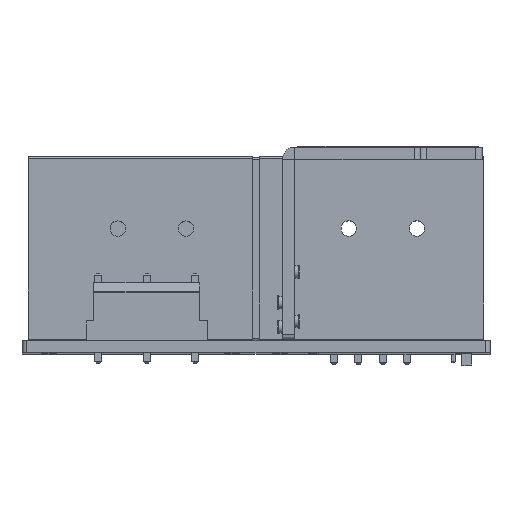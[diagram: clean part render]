
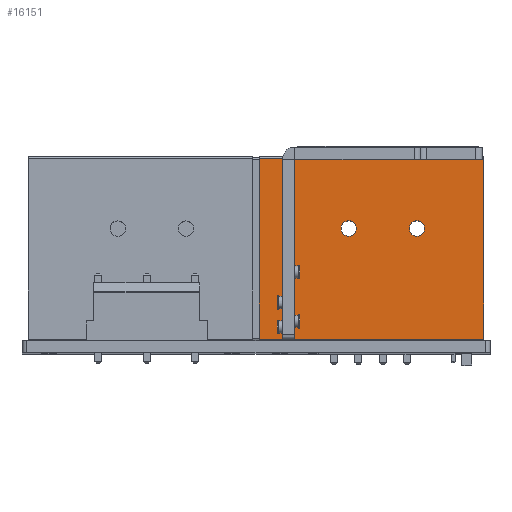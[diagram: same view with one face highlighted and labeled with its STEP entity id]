
A CAD part, top view. The second image highlights one B-rep face of the part: STEP entity #16151.
In plain terms, the highlighted planar face has unit normal (0, 0, 1) as drawn and (-1, 0, 0) by its records, which use the part's own axes.
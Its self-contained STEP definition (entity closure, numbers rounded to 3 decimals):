
#15432=DIRECTION('',(0.,1.,0.));
#15433=VECTOR('',#15432,29.4);
#15434=CARTESIAN_POINT('',(0.,0.3,0.));
#15435=LINE('',#15434,#15433);
#15507=DIRECTION('',(0.,1.,0.));
#15508=VECTOR('',#15507,29.4);
#15509=CARTESIAN_POINT('',(0.,0.3,-36.6));
#15510=LINE('',#15509,#15508);
#15589=DIRECTION('',(0.,0.,-1.));
#15590=VECTOR('',#15589,36.6);
#15591=CARTESIAN_POINT('',(0.,29.7,0.));
#15592=LINE('',#15591,#15590);
#15596=DIRECTION('',(0.,0.,-1.));
#15597=VECTOR('',#15596,36.6);
#15598=CARTESIAN_POINT('',(0.,0.3,0.));
#15599=LINE('',#15598,#15597);
#15603=CARTESIAN_POINT('',(0.,18.3,-22.));
#15604=DIRECTION('',(-1.,0.,0.));
#15605=DIRECTION('',(0.,1.,0.));
#15606=AXIS2_PLACEMENT_3D('',#15603,#15604,#15605);
#15611=CARTESIAN_POINT('',(0.,18.3,-22.));
#15612=DIRECTION('',(-1.,0.,0.));
#15613=DIRECTION('',(0.,-1.,0.));
#15614=AXIS2_PLACEMENT_3D('',#15611,#15612,#15613);
#15619=CARTESIAN_POINT('',(0.,18.3,-10.9));
#15620=DIRECTION('',(-1.,0.,0.));
#15621=DIRECTION('',(0.,1.,0.));
#15622=AXIS2_PLACEMENT_3D('',#15619,#15620,#15621);
#15627=CARTESIAN_POINT('',(0.,18.3,-10.9));
#15628=DIRECTION('',(-1.,0.,0.));
#15629=DIRECTION('',(0.,-1.,0.));
#15630=AXIS2_PLACEMENT_3D('',#15627,#15628,#15629);
#15918=CARTESIAN_POINT('',(0.,29.7,0.));
#15920=VERTEX_POINT('',#15918);
#15923=CARTESIAN_POINT('',(0.,29.7,-36.6));
#15924=VERTEX_POINT('',#15923);
#15925=CARTESIAN_POINT('',(0.,0.3,0.));
#15927=VERTEX_POINT('',#15925);
#15929=CARTESIAN_POINT('',(0.,0.3,-36.6));
#15930=VERTEX_POINT('',#15929);
#15941=CARTESIAN_POINT('',(0.,17.05,-22.));
#15942=VERTEX_POINT('',#15941);
#15945=CARTESIAN_POINT('',(0.,19.55,-22.));
#15946=VERTEX_POINT('',#15945);
#15953=CARTESIAN_POINT('',(0.,17.05,-10.9));
#15954=VERTEX_POINT('',#15953);
#15957=CARTESIAN_POINT('',(0.,19.55,-10.9));
#15958=VERTEX_POINT('',#15957);
#16127=CARTESIAN_POINT('',(0.,30.,0.));
#16128=DIRECTION('',(-1.,0.,0.));
#16129=DIRECTION('',(0.,-1.,0.));
#16130=AXIS2_PLACEMENT_3D('',#16127,#16128,#16129);
#16131=PLANE('',#16130);
#16132=ORIENTED_EDGE('',*,*,#16120,.F.);
#16133=ORIENTED_EDGE('',*,*,#16012,.F.);
#16135=ORIENTED_EDGE('',*,*,#16134,.T.);
#16136=ORIENTED_EDGE('',*,*,#16054,.T.);
#16137=EDGE_LOOP('',(#16132,#16133,#16135,#16136));
#16138=FACE_OUTER_BOUND('',#16137,.F.);
#16140=ORIENTED_EDGE('',*,*,#16139,.T.);
#16142=ORIENTED_EDGE('',*,*,#16141,.T.);
#16143=EDGE_LOOP('',(#16140,#16142));
#16144=FACE_BOUND('',#16143,.F.);
#16146=ORIENTED_EDGE('',*,*,#16145,.T.);
#16148=ORIENTED_EDGE('',*,*,#16147,.T.);
#16149=EDGE_LOOP('',(#16146,#16148));
#16150=FACE_BOUND('',#16149,.F.);
#15607=CIRCLE('',#15606,1.25);
#15615=CIRCLE('',#15614,1.25);
#15623=CIRCLE('',#15622,1.25);
#15631=CIRCLE('',#15630,1.25);
#16012=EDGE_CURVE('',#15927,#15920,#15435,.T.);
#16054=EDGE_CURVE('',#15930,#15924,#15510,.T.);
#16120=EDGE_CURVE('',#15920,#15924,#15592,.T.);
#16134=EDGE_CURVE('',#15927,#15930,#15599,.T.);
#16139=EDGE_CURVE('',#15946,#15942,#15607,.T.);
#16141=EDGE_CURVE('',#15942,#15946,#15615,.T.);
#16145=EDGE_CURVE('',#15958,#15954,#15623,.T.);
#16147=EDGE_CURVE('',#15954,#15958,#15631,.T.);
#16151=ADVANCED_FACE('',(#16138,#16144,#16150),#16131,.T.);
